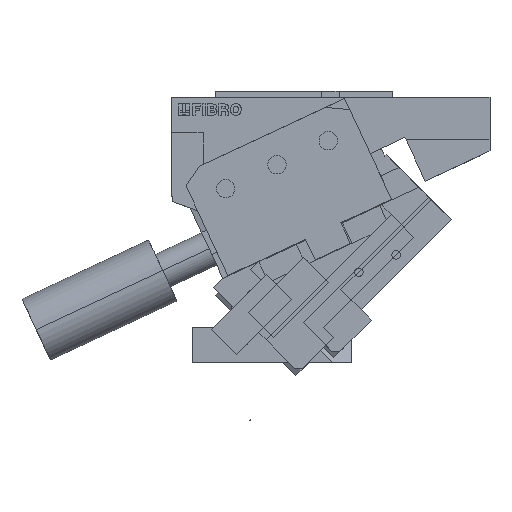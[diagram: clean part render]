
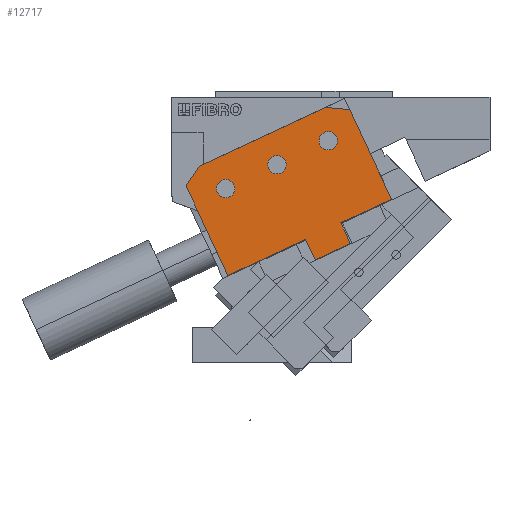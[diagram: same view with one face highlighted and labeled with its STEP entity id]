
A CAD part, front view. The second image highlights one B-rep face of the part: STEP entity #12717.
In plain terms, the highlighted planar face has unit normal (0, -1, 0).
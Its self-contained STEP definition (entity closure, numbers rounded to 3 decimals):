
#12546=AXIS2_PLACEMENT_3D('Circle Axis2P3D',#12544,#12545,$) ;
#12570=AXIS2_PLACEMENT_3D('Circle Axis2P3D',#12568,#12569,$) ;
#12593=AXIS2_PLACEMENT_3D('Plane Axis2P3D',#12590,#12591,#12592) ;
#12679=AXIS2_PLACEMENT_3D('Circle Axis2P3D',#12677,#12678,$) ;
#12688=AXIS2_PLACEMENT_3D('Circle Axis2P3D',#12686,#12687,$) ;
#12701=AXIS2_PLACEMENT_3D('Circle Axis2P3D',#12699,#12700,$) ;
#12710=AXIS2_PLACEMENT_3D('Circle Axis2P3D',#12708,#12709,$) ;
#12541=CARTESIAN_POINT('Vertex',(203.496,-231.,319.281)) ;
#12544=CARTESIAN_POINT('Axis2P3D Location',(191.714,-231.,313.787)) ;
#12548=CARTESIAN_POINT('Vertex',(179.932,-231.,308.293)) ;
#12568=CARTESIAN_POINT('Axis2P3D Location',(191.714,-231.,313.787)) ;
#12590=CARTESIAN_POINT('Axis2P3D Location',(280.949,-231.,231.268)) ;
#12595=CARTESIAN_POINT('Line Origine',(99.044,-231.,319.675)) ;
#12599=CARTESIAN_POINT('Vertex',(187.409,-231.,360.88)) ;
#12601=CARTESIAN_POINT('Vertex',(10.679,-231.,278.469)) ;
#12604=CARTESIAN_POINT('Line Origine',(0.744,-231.,264.281)) ;
#12608=CARTESIAN_POINT('Vertex',(-9.191,-231.,250.093)) ;
#12611=CARTESIAN_POINT('Line Origine',(20.325,-231.,186.797)) ;
#12615=CARTESIAN_POINT('Vertex',(49.84,-231.,123.5)) ;
#12618=CARTESIAN_POINT('Line Origine',(104.672,-231.,149.069)) ;
#12622=CARTESIAN_POINT('Vertex',(159.504,-231.,174.637)) ;
#12625=CARTESIAN_POINT('Line Origine',(166.266,-231.,160.136)) ;
#12629=CARTESIAN_POINT('Vertex',(173.027,-231.,145.635)) ;
#12632=CARTESIAN_POINT('Line Origine',(197.951,-231.,157.257)) ;
#12636=CARTESIAN_POINT('Vertex',(222.874,-231.,168.879)) ;
#12639=CARTESIAN_POINT('Line Origine',(216.113,-231.,183.38)) ;
#12643=CARTESIAN_POINT('Vertex',(209.351,-231.,197.881)) ;
#12646=CARTESIAN_POINT('Line Origine',(245.15,-231.,214.575)) ;
#12650=CARTESIAN_POINT('Vertex',(280.949,-231.,231.268)) ;
#12653=CARTESIAN_POINT('Line Origine',(251.433,-231.,294.564)) ;
#12657=CARTESIAN_POINT('Vertex',(221.918,-231.,357.861)) ;
#12660=CARTESIAN_POINT('Line Origine',(204.663,-231.,359.37)) ;
#12677=CARTESIAN_POINT('Axis2P3D Location',(46.705,-231.,246.168)) ;
#12681=CARTESIAN_POINT('Vertex',(34.923,-231.,240.674)) ;
#12683=CARTESIAN_POINT('Vertex',(58.487,-231.,251.662)) ;
#12686=CARTESIAN_POINT('Axis2P3D Location',(46.705,-231.,246.168)) ;
#12699=CARTESIAN_POINT('Axis2P3D Location',(119.21,-231.,279.978)) ;
#12703=CARTESIAN_POINT('Vertex',(130.992,-231.,285.472)) ;
#12705=CARTESIAN_POINT('Vertex',(107.428,-231.,274.484)) ;
#12708=CARTESIAN_POINT('Axis2P3D Location',(119.21,-231.,279.978)) ;
#12545=DIRECTION('Axis2P3D Direction',(0.,1.,0.)) ;
#12569=DIRECTION('Axis2P3D Direction',(0.,1.,0.)) ;
#12591=DIRECTION('Axis2P3D Direction',(-0.,-1.,0.)) ;
#12592=DIRECTION('Axis2P3D XDirection',(-0.423,0.,0.906)) ;
#12596=DIRECTION('Vector Direction',(-0.906,0.,-0.423)) ;
#12605=DIRECTION('Vector Direction',(0.574,0.,0.819)) ;
#12612=DIRECTION('Vector Direction',(-0.423,0.,0.906)) ;
#12619=DIRECTION('Vector Direction',(-0.906,0.,-0.423)) ;
#12626=DIRECTION('Vector Direction',(0.423,0.,-0.906)) ;
#12633=DIRECTION('Vector Direction',(-0.906,0.,-0.423)) ;
#12640=DIRECTION('Vector Direction',(0.423,0.,-0.906)) ;
#12647=DIRECTION('Vector Direction',(-0.906,0.,-0.423)) ;
#12654=DIRECTION('Vector Direction',(-0.423,0.,0.906)) ;
#12661=DIRECTION('Vector Direction',(0.996,0.,-0.087)) ;
#12678=DIRECTION('Axis2P3D Direction',(-0.,-1.,0.)) ;
#12687=DIRECTION('Axis2P3D Direction',(-0.,-1.,0.)) ;
#12700=DIRECTION('Axis2P3D Direction',(-0.,-1.,0.)) ;
#12709=DIRECTION('Axis2P3D Direction',(-0.,-1.,0.)) ;
#12597=VECTOR('Line Direction',#12596,1.) ;
#12606=VECTOR('Line Direction',#12605,1.) ;
#12613=VECTOR('Line Direction',#12612,1.) ;
#12620=VECTOR('Line Direction',#12619,1.) ;
#12627=VECTOR('Line Direction',#12626,1.) ;
#12634=VECTOR('Line Direction',#12633,1.) ;
#12641=VECTOR('Line Direction',#12640,1.) ;
#12648=VECTOR('Line Direction',#12647,1.) ;
#12655=VECTOR('Line Direction',#12654,1.) ;
#12662=VECTOR('Line Direction',#12661,1.) ;
#12666=ORIENTED_EDGE('',*,*,#12603,.T.) ;
#12667=ORIENTED_EDGE('',*,*,#12610,.T.) ;
#12668=ORIENTED_EDGE('',*,*,#12617,.F.) ;
#12669=ORIENTED_EDGE('',*,*,#12624,.F.) ;
#12670=ORIENTED_EDGE('',*,*,#12631,.F.) ;
#12671=ORIENTED_EDGE('',*,*,#12638,.F.) ;
#12672=ORIENTED_EDGE('',*,*,#12645,.T.) ;
#12673=ORIENTED_EDGE('',*,*,#12652,.F.) ;
#12674=ORIENTED_EDGE('',*,*,#12659,.T.) ;
#12675=ORIENTED_EDGE('',*,*,#12664,.T.) ;
#12692=ORIENTED_EDGE('',*,*,#12685,.T.) ;
#12693=ORIENTED_EDGE('',*,*,#12690,.T.) ;
#12696=ORIENTED_EDGE('',*,*,#12550,.T.) ;
#12697=ORIENTED_EDGE('',*,*,#12572,.T.) ;
#12714=ORIENTED_EDGE('',*,*,#12707,.T.) ;
#12715=ORIENTED_EDGE('',*,*,#12712,.T.) ;
#12694=FACE_BOUND('',#12691,.T.) ;
#12698=FACE_BOUND('',#12695,.T.) ;
#12716=FACE_BOUND('',#12713,.T.) ;
#12717=ADVANCED_FACE('mounting clearance',(#12676,#12694,#12698,#12716),#12594,.T.) ;
#12547=CIRCLE('generated circle',#12546,13.) ;
#12571=CIRCLE('generated circle',#12570,13.) ;
#12680=CIRCLE('generated circle',#12679,13.) ;
#12689=CIRCLE('generated circle',#12688,13.) ;
#12702=CIRCLE('generated circle',#12701,13.) ;
#12711=CIRCLE('generated circle',#12710,13.) ;
#12550=EDGE_CURVE('',#12549,#12542,#12547,.T.) ;
#12572=EDGE_CURVE('',#12542,#12549,#12571,.T.) ;
#12603=EDGE_CURVE('',#12600,#12602,#12598,.T.) ;
#12610=EDGE_CURVE('',#12602,#12609,#12607,.F.) ;
#12617=EDGE_CURVE('',#12616,#12609,#12614,.T.) ;
#12624=EDGE_CURVE('',#12623,#12616,#12621,.T.) ;
#12631=EDGE_CURVE('',#12630,#12623,#12628,.F.) ;
#12638=EDGE_CURVE('',#12637,#12630,#12635,.T.) ;
#12645=EDGE_CURVE('',#12637,#12644,#12642,.F.) ;
#12652=EDGE_CURVE('',#12651,#12644,#12649,.T.) ;
#12659=EDGE_CURVE('',#12651,#12658,#12656,.T.) ;
#12664=EDGE_CURVE('',#12658,#12600,#12663,.F.) ;
#12685=EDGE_CURVE('',#12682,#12684,#12680,.F.) ;
#12690=EDGE_CURVE('',#12684,#12682,#12689,.F.) ;
#12707=EDGE_CURVE('',#12704,#12706,#12702,.F.) ;
#12712=EDGE_CURVE('',#12706,#12704,#12711,.F.) ;
#12665=EDGE_LOOP('',(#12666,#12667,#12668,#12669,#12670,#12671,#12672,#12673,#12674,#12675)) ;
#12691=EDGE_LOOP('',(#12692,#12693)) ;
#12695=EDGE_LOOP('',(#12696,#12697)) ;
#12713=EDGE_LOOP('',(#12714,#12715)) ;
#12676=FACE_OUTER_BOUND('',#12665,.T.) ;
#12598=LINE('Line',#12595,#12597) ;
#12607=LINE('Line',#12604,#12606) ;
#12614=LINE('Line',#12611,#12613) ;
#12621=LINE('Line',#12618,#12620) ;
#12628=LINE('Line',#12625,#12627) ;
#12635=LINE('Line',#12632,#12634) ;
#12642=LINE('Line',#12639,#12641) ;
#12649=LINE('Line',#12646,#12648) ;
#12656=LINE('Line',#12653,#12655) ;
#12663=LINE('Line',#12660,#12662) ;
#12594=PLANE('',#12593) ;
#12542=VERTEX_POINT('',#12541) ;
#12549=VERTEX_POINT('',#12548) ;
#12600=VERTEX_POINT('',#12599) ;
#12602=VERTEX_POINT('',#12601) ;
#12609=VERTEX_POINT('',#12608) ;
#12616=VERTEX_POINT('',#12615) ;
#12623=VERTEX_POINT('',#12622) ;
#12630=VERTEX_POINT('',#12629) ;
#12637=VERTEX_POINT('',#12636) ;
#12644=VERTEX_POINT('',#12643) ;
#12651=VERTEX_POINT('',#12650) ;
#12658=VERTEX_POINT('',#12657) ;
#12682=VERTEX_POINT('',#12681) ;
#12684=VERTEX_POINT('',#12683) ;
#12704=VERTEX_POINT('',#12703) ;
#12706=VERTEX_POINT('',#12705) ;
